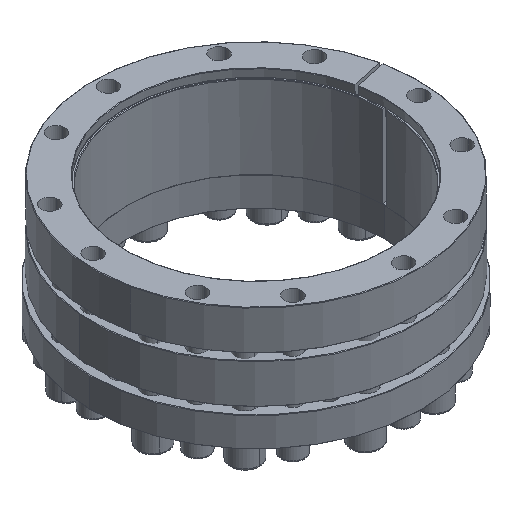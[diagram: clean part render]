
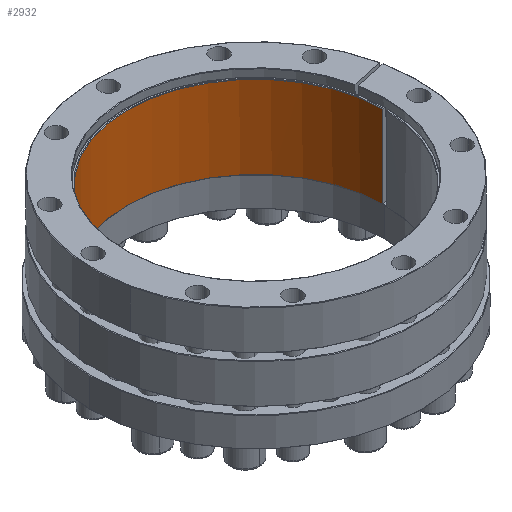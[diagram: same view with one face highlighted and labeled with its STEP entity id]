
A CAD part, isometric view. The second image highlights one B-rep face of the part: STEP entity #2932.
In plain terms, the highlighted cylindrical face has radius 130 mm (diameter 260 mm), a partial arc.
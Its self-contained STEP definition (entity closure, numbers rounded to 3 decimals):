
#174 = AXIS2_PLACEMENT_3D ( 'NONE', #24162, #7154, #26973 ) ;
#412 = DIRECTION ( 'NONE',  ( 0., 0., 1. ) ) ;
#1086 = VERTEX_POINT ( 'NONE', #26982 ) ;
#1347 = EDGE_LOOP ( 'NONE', ( #23345, #23747, #8929, #15877, #22402, #36472, #16217, #23025 ) ) ;
#1403 = CARTESIAN_POINT ( 'NONE',  ( 130., 0., 114. ) ) ;
#2932 = ADVANCED_FACE ( 'NONE', ( #13304 ), #17300, .F. ) ;
#6014 = CIRCLE ( 'NONE', #35323, 130. ) ;
#6532 = DIRECTION ( 'NONE',  ( -1., 0., 0. ) ) ;
#7154 = DIRECTION ( 'NONE',  ( 0., 0., -1. ) ) ;
#7392 = VERTEX_POINT ( 'NONE', #34718 ) ;
#8929 = ORIENTED_EDGE ( 'NONE', *, *, #20187, .T. ) ;
#9257 = CARTESIAN_POINT ( 'NONE',  ( 0., 0., 114. ) ) ;
#9351 = CARTESIAN_POINT ( 'NONE',  ( 129.988, 1.75, 30.5 ) ) ;
#9436 = LINE ( 'NONE', #12327, #23636 ) ;
#9880 = CIRCLE ( 'NONE', #174, 130. ) ;
#10757 = LINE ( 'NONE', #1403, #31533 ) ;
#11964 = AXIS2_PLACEMENT_3D ( 'NONE', #15585, #35305, #18428 ) ;
#12049 = LINE ( 'NONE', #15288, #19596 ) ;
#12093 = DIRECTION ( 'NONE',  ( 0., 0., -1. ) ) ;
#12327 = CARTESIAN_POINT ( 'NONE',  ( -129.988, 1.75, 114. ) ) ;
#12837 = CARTESIAN_POINT ( 'NONE',  ( 0., 0., 113.5 ) ) ;
#13304 = FACE_OUTER_BOUND ( 'NONE', #1347, .T. ) ;
#13681 = VERTEX_POINT ( 'NONE', #15153 ) ;
#15153 = CARTESIAN_POINT ( 'NONE',  ( 129.988, 1.75, 113.5 ) ) ;
#15288 = CARTESIAN_POINT ( 'NONE',  ( 129.988, 1.75, 114. ) ) ;
#15585 = CARTESIAN_POINT ( 'NONE',  ( 0., 0., 30.5 ) ) ;
#15690 = DIRECTION ( 'NONE',  ( 1., 0., 0. ) ) ;
#15744 = VERTEX_POINT ( 'NONE', #34573 ) ;
#15877 = ORIENTED_EDGE ( 'NONE', *, *, #21534, .T. ) ;
#16217 = ORIENTED_EDGE ( 'NONE', *, *, #20426, .T. ) ;
#16680 = CIRCLE ( 'NONE', #32969, 130. ) ;
#17300 = CYLINDRICAL_SURFACE ( 'NONE', #20117, 130. ) ;
#17452 = CARTESIAN_POINT ( 'NONE',  ( 0., 0., 30. ) ) ;
#18428 = DIRECTION ( 'NONE',  ( 1., 0., 0. ) ) ;
#18932 = CIRCLE ( 'NONE', #11964, 130. ) ;
#19251 = VERTEX_POINT ( 'NONE', #20395 ) ;
#19596 = VECTOR ( 'NONE', #32184, 1000. ) ;
#19905 = EDGE_CURVE ( 'NONE', #23243, #21040, #9880, .T. ) ;
#19925 = EDGE_CURVE ( 'NONE', #21040, #7392, #10757, .T. ) ;
#20117 = AXIS2_PLACEMENT_3D ( 'NONE', #9257, #12093, #6532 ) ;
#20187 = EDGE_CURVE ( 'NONE', #23243, #13681, #12049, .T. ) ;
#20316 = DIRECTION ( 'NONE',  ( -1., 0., 0. ) ) ;
#20395 = CARTESIAN_POINT ( 'NONE',  ( -130., 0., 30.5 ) ) ;
#20426 = EDGE_CURVE ( 'NONE', #19251, #31921, #25741, .T. ) ;
#20919 = DIRECTION ( 'NONE',  ( 0., 0., -1. ) ) ;
#21040 = VERTEX_POINT ( 'NONE', #25025 ) ;
#21534 = EDGE_CURVE ( 'NONE', #13681, #15744, #16680, .T. ) ;
#22351 = DIRECTION ( 'NONE',  ( 0., 0., -1. ) ) ;
#22402 = ORIENTED_EDGE ( 'NONE', *, *, #33426, .T. ) ;
#23025 = ORIENTED_EDGE ( 'NONE', *, *, #35849, .F. ) ;
#23243 = VERTEX_POINT ( 'NONE', #9351 ) ;
#23345 = ORIENTED_EDGE ( 'NONE', *, *, #19925, .F. ) ;
#23636 = VECTOR ( 'NONE', #20919, 1000. ) ;
#23747 = ORIENTED_EDGE ( 'NONE', *, *, #19905, .F. ) ;
#24162 = CARTESIAN_POINT ( 'NONE',  ( 0., 0., 30.5 ) ) ;
#25025 = CARTESIAN_POINT ( 'NONE',  ( 130., 0., 30.5 ) ) ;
#25741 = LINE ( 'NONE', #36352, #33185 ) ;
#26973 = DIRECTION ( 'NONE',  ( 1., 0., 0. ) ) ;
#26982 = CARTESIAN_POINT ( 'NONE',  ( -129.988, 1.75, 30.5 ) ) ;
#29773 = DIRECTION ( 'NONE',  ( 0., 0., -1. ) ) ;
#31533 = VECTOR ( 'NONE', #29773, 1000. ) ;
#31921 = VERTEX_POINT ( 'NONE', #32155 ) ;
#32155 = CARTESIAN_POINT ( 'NONE',  ( -130., 0., 30. ) ) ;
#32184 = DIRECTION ( 'NONE',  ( 0., 0., 1. ) ) ;
#32597 = DIRECTION ( 'NONE',  ( 0., 0., 1. ) ) ;
#32969 = AXIS2_PLACEMENT_3D ( 'NONE', #12837, #32597, #15690 ) ;
#33185 = VECTOR ( 'NONE', #22351, 1000. ) ;
#33426 = EDGE_CURVE ( 'NONE', #15744, #1086, #9436, .T. ) ;
#34573 = CARTESIAN_POINT ( 'NONE',  ( -129.988, 1.75, 113.5 ) ) ;
#34718 = CARTESIAN_POINT ( 'NONE',  ( 130., 0., 30. ) ) ;
#35305 = DIRECTION ( 'NONE',  ( 0., 0., -1. ) ) ;
#35323 = AXIS2_PLACEMENT_3D ( 'NONE', #17452, #412, #20316 ) ;
#35591 = EDGE_CURVE ( 'NONE', #19251, #1086, #18932, .T. ) ;
#35849 = EDGE_CURVE ( 'NONE', #7392, #31921, #6014, .T. ) ;
#36352 = CARTESIAN_POINT ( 'NONE',  ( -130., 0., 114. ) ) ;
#36472 = ORIENTED_EDGE ( 'NONE', *, *, #35591, .F. ) ;
